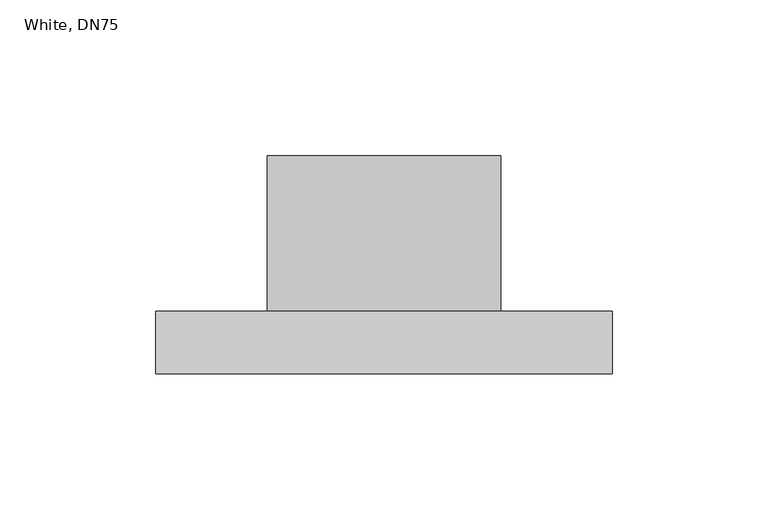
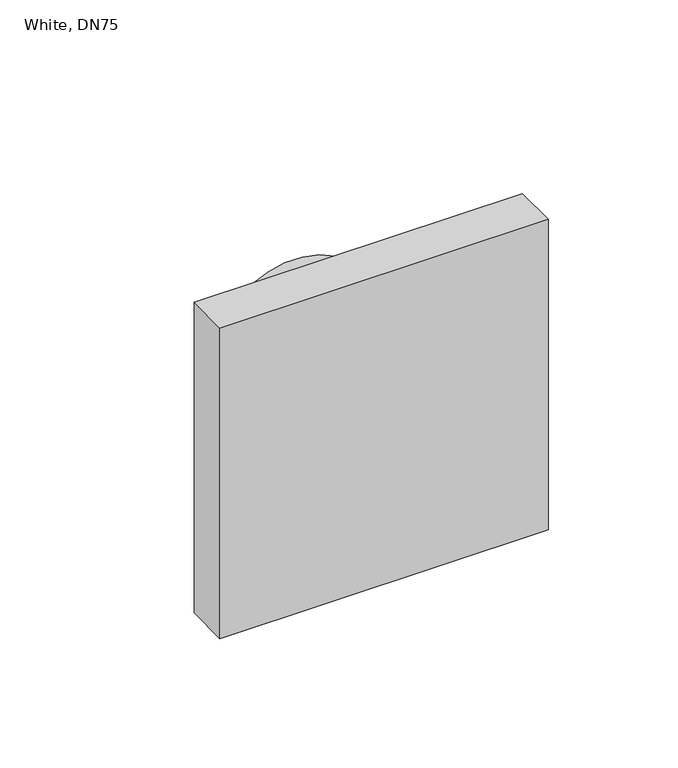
"""IFC4 building model written with IfcOpenShell, lengths in millimetres: valve geometry, MASTER 3 PLUS Aeration valve : White, DN75."""

from ifc_helpers import new_model, si_unit, point, frame, origin, origin_2d, place, context, project, spatial, polyline, circle_curve, trimmed, segment, composite_curve, outline, extrude, source, transform, mapped, element, save


def white_dn75_35fae58d(model_context):
    return source(origin(), model_context, "Body", "SweptSolid", [
        extrude(outline(composite_curve([segment(trimmed(circle_curve(origin_2d(), 37.5), [point((0.0, -37.5))], [point((0.0, 37.5))], False, "CARTESIAN"), True, "CONTINUOUS"), segment(trimmed(circle_curve(origin_2d(), 37.5), [point((0.0, 37.5))], [point((0.0, -37.5))], False, "CARTESIAN"), True, "CONTINUOUS")], self_intersect=False)), frame((0.0, 0.0, 0.0), z_axis=(0.0, 1.0, 0.0), x_axis=(0.0, 0.0, 1.0)), (0.0, 0.0, 1.0), 50.0),
        extrude(outline(polyline([(73.3, -20.0), (-73.3, -20.0), (-73.3, 0.0), (73.3, 0.0), (73.3, -20.0)])), frame((0.0, 0.0, -73.3), z_axis=(0.0, 0.0, 1.0), x_axis=(1.0, 0.0, 0.0)), (0.0, 0.0, 1.0), 146.6),
    ])


if __name__ == "__main__":
    model = new_model("IFC4")
    model_context = context("Model", 3, world=origin())
    ifc_project = project(units=[si_unit("LENGTHUNIT", "METRE", prefix="MILLI")], contexts=[model_context])
    site = spatial("IfcSite", under=ifc_project)
    building = spatial("IfcBuilding", under=site)
    placement = place(None, origin())
    white_dn75_shape = white_dn75_35fae58d(model_context)
    element("IfcValve", 1, ObjectType="MASTER 3 PLUS Aeration valve : White, DN75", at=placement, inside=building, context=model_context, shape_type="MappedRepresentation", body=[
        mapped(white_dn75_shape, transform((0.0, 0.0, 0.0), x_axis=(1.0, 0.0, 0.0), y_axis=(0.0, 1.0, 0.0), z_axis=(0.0, 0.0, 1.0))),
    ])
    save(model, "model.ifc")
